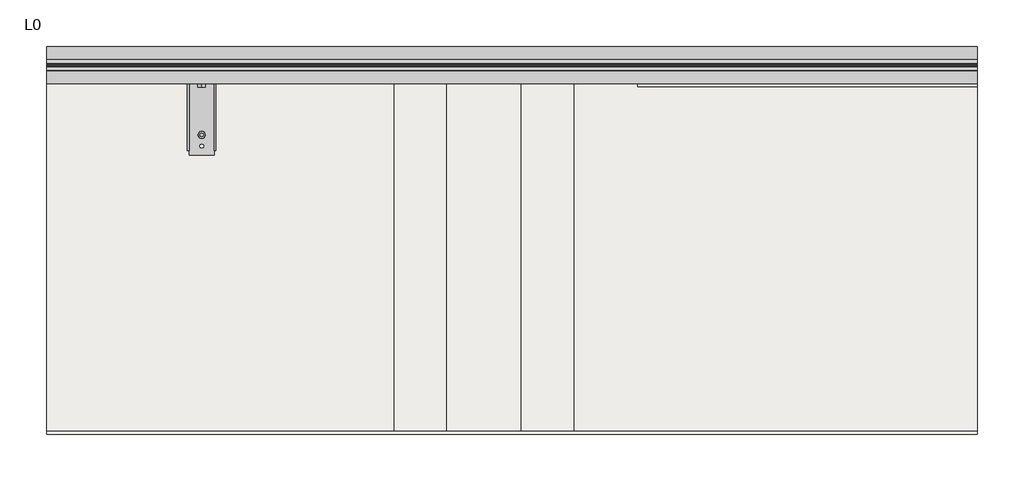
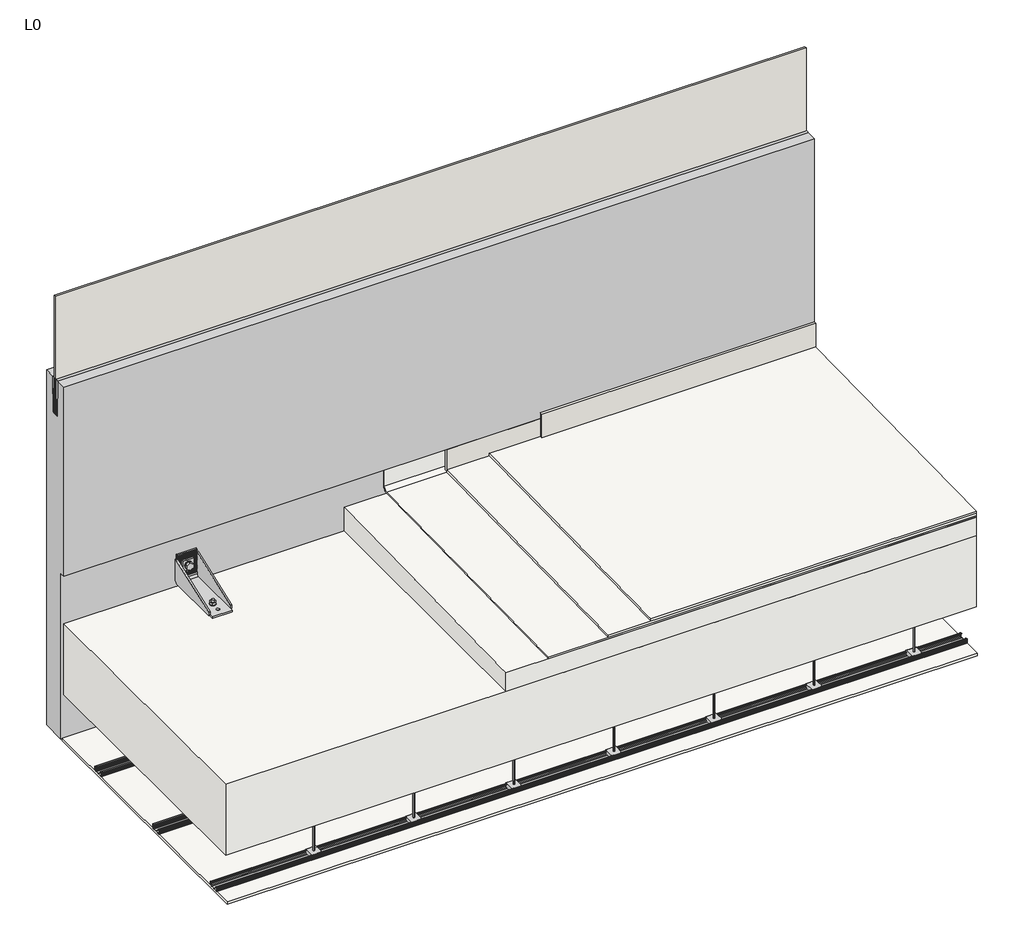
# One storey: 24 fasteners, 5 proxies, 5 slabs, 3 walls, 1 covering.
"""IFC4 building model written with IfcOpenShell, lengths in millimetres."""

from ifc_helpers import new_model, si_unit, frame, origin, place, context, project, spatial, polyline, circle_curve, outline, extrude, transform, mapped, element, save
from ifc_brep_helpers import plane_surface, revolved_surface, advanced_brep
from components import montantes_falso_techo_montantes_falso_techo_e8f84bc9, montantes_falso_techo_montantes_falso_techo_cf3b863c, sellado_sellado_5cd9687d, fastener_4b0fadc4, fastener_2a2ea2da, fastener_e2884140, fastener_89f2e246, fastener_81d81b55, rec_aem12_100_aem12_100_46347e7a, rec_aem12_140_aem12_140_dcbebcd7, rec_cpa448t17_cpa448t17_96b728d6, rec_m16_45_m16_45_58386a80, rec_paa150708t14_paa150708t14_abbbcd53, rec_ph4022_ph4022_520e7247, rec_tph1250_tph1250_56b32e52, slab_5167fee6

model = new_model("IFC4")

# Units and contexts
model_context = context("Model", 3, world=origin())
ifc_project = project(units=[si_unit("LENGTHUNIT", "METRE", prefix="MILLI")], contexts=[model_context])

# Site, building, storey
site = spatial("IfcSite", under=ifc_project)
building = spatial("IfcBuilding", under=site)
storey = spatial("IfcBuildingStorey", under=building, Name="L0", Elevation=0.0)

# Proxies
placement = place(None, origin())
element("IfcBuildingElementProxy", 1, Name="Panel Hormigón : Panel Hormigón", ObjectType="Panel Hormigón : Panel Hormigón", at=placement, inside=storey, context=model_context, shape_type="AdvancedBrep", body=[
    advanced_brep(
    [(4887.7202663, 15914.5302953, 1000.0), (7887.7202663, 15914.5302953, 1000.0), (7887.7202663, 15957.0302953, 1000.0), (4887.7202663, 15957.0302953, 1000.0), (7887.7202663, 16034.5302953, 1000.0), (4887.7202663, 16034.5302953, 1000.0), (4887.7202663, 15992.0302953, 1000.0), (7887.7202663, 15992.0302953, 1000.0), (4887.7202663, 16034.5302953, -500.0), (7887.7202663, 16034.5302953, -500.0), (7887.7202663, 15934.5302953, -500.0), (4887.7202663, 15934.5302953, -500.0), (4887.7202663, 15934.5302953, 200.0), (4887.7202663, 15914.5302953, 200.0), (4887.7202663, 15959.5302953, 850.0), (4887.7202663, 15989.5302953, 850.0), (7887.7202663, 15914.5302953, 200.0), (7887.7202663, 15989.5302953, 850.0), (7887.7202663, 15959.5302953, 850.0), (7887.7202663, 15934.5302953, 200.0), (5367.5702663, 15934.5302953, -270.0), (5407.8702663, 15934.5302953, -270.0), (5407.8702663, 15934.5302953, -420.0), (5367.5702663, 15934.5302953, -420.0), (7367.5702663, 15934.5302953, -270.0), (7407.8702663, 15934.5302953, -270.0), (7407.8702663, 15934.5302953, -420.0), (7367.5702663, 15934.5302953, -420.0), (5398.7202663, 15934.5302953, 72.0), (5376.7202663, 15934.5302953, 72.0), (7398.7202663, 15934.5302953, 72.0), (7376.7202663, 15934.5302953, 72.0), (5367.5702663, 15956.6051011, -270.0), (5407.8702663, 15956.6051011, -270.0), (5367.5702663, 15956.6051011, -420.0), (5407.8702663, 15956.6051011, -420.0), (7367.5702663, 15956.6051011, -270.0), (7407.8702663, 15956.6051011, -270.0), (7367.5702663, 15956.6051011, -420.0), (7407.8702663, 15956.6051011, -420.0), (5376.7202663, 15979.5302953, 72.0), (5398.7202663, 15979.5302953, 72.0), (7376.7202663, 15979.5302953, 72.0), (7398.7202663, 15979.5302953, 72.0)],
    [
        (0, 1),
        (1, 2),
        (2, 3),
        (3, 0),
        (4, 5),
        (5, 6),
        (6, 7),
        (7, 4),
        (8, 9),
        (9, 10),
        (10, 11),
        (11, 8),
        (5, 8),
        (11, 12),
        (12, 13),
        (13, 0),
        (3, 14),
        (14, 15),
        (15, 6),
        (13, 16),
        (16, 1),
        (9, 4),
        (7, 17),
        (17, 18),
        (18, 2),
        (16, 19),
        (19, 10),
        (12, 19),
        (20, 21),
        (21, 22),
        (22, 23),
        (23, 20),
        (24, 25),
        (25, 26),
        (26, 27),
        (27, 24),
        (28, 29, circle_curve(frame((5387.7202663, 15934.5302953, 72.0), z_axis=(0.0, 1.0, 0.0), x_axis=(1.0, 0.0, 0.0)), 11.0)),
        (29, 28, circle_curve(frame((5387.7202663, 15934.5302953, 72.0), z_axis=(0.0, 1.0, 0.0), x_axis=(1.0, 0.0, 0.0)), 11.0)),
        (30, 31, circle_curve(frame((7387.7202663, 15934.5302953, 72.0), z_axis=(0.0, 1.0, 0.0), x_axis=(1.0, 0.0, 0.0)), 11.0)),
        (31, 30, circle_curve(frame((7387.7202663, 15934.5302953, 72.0), z_axis=(0.0, 1.0, 0.0), x_axis=(1.0, 0.0, 0.0)), 11.0)),
        (14, 18),
        (17, 15),
        (32, 33),
        (33, 21),
        (20, 32),
        (34, 23),
        (22, 35),
        (35, 34),
        (34, 32),
        (33, 35),
        (36, 37),
        (37, 25),
        (24, 36),
        (38, 27),
        (26, 39),
        (39, 38),
        (38, 36),
        (37, 39),
        (40, 41, circle_curve(frame((5387.7202663, 15979.5302953, 72.0), z_axis=(0.0, -1.0, 0.0), x_axis=(1.0, 0.0, 0.0)), 11.0)),
        (41, 40, circle_curve(frame((5387.7202663, 15979.5302953, 72.0), z_axis=(0.0, -1.0, 0.0), x_axis=(1.0, 0.0, 0.0)), 11.0)),
        (40, 29),
        (28, 41),
        (42, 43, circle_curve(frame((7387.7202663, 15979.5302953, 72.0), z_axis=(0.0, -1.0, 0.0), x_axis=(1.0, 0.0, 0.0)), 11.0)),
        (43, 42, circle_curve(frame((7387.7202663, 15979.5302953, 72.0), z_axis=(0.0, -1.0, 0.0), x_axis=(1.0, 0.0, 0.0)), 11.0)),
        (42, 31),
        (30, 43),
    ],
    [
        plane_surface(frame((4887.7202663, 16034.5302953, 1000.0), z_axis=(0.0, 0.0, 1.0), x_axis=(0.0, -1.0, 0.0))),
        plane_surface(frame((4887.7202663, 16034.5302953, -500.0), z_axis=(0.0, 0.0, -1.0), x_axis=(0.0, 1.0, 0.0))),
        plane_surface(frame((4887.7202663, 16034.5302953, 1000.0), z_axis=(-1.0, 0.0, 0.0), x_axis=(0.0, 0.0, -1.0))),
        plane_surface(frame((4887.7202663, 15914.5302953, 1000.0), z_axis=(0.0, -1.0, 0.0), x_axis=(0.0, 0.0, -1.0))),
        plane_surface(frame((7887.7202663, 15914.5302953, 1000.0), z_axis=(1.0, 0.0, 0.0), x_axis=(0.0, 0.0, -1.0))),
        plane_surface(frame((7887.7202663, 16034.5302953, 1000.0), z_axis=(0.0, 1.0, 0.0), x_axis=(0.0, 0.0, -1.0))),
        plane_surface(frame((4887.7202663, 15914.5302953, 200.0), z_axis=(0.0, 0.0, -1.0), x_axis=(1.0, 0.0, 0.0))),
        plane_surface(frame((4887.7202663, 15934.5302953, 200.0), z_axis=(0.0, -1.0, 0.0), x_axis=(1.0, 0.0, 0.0))),
        plane_surface(frame((4887.7202663, 15989.5302953, 850.0), z_axis=(0.0, 0.0, 1.0), x_axis=(1.0, 0.0, 0.0))),
        plane_surface(frame((4887.7202663, 15959.5302953, 850.0), z_axis=(0.0, 0.9998611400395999, 0.016664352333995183), x_axis=(1.0, 0.0, 0.0))),
        plane_surface(frame((4887.7202663, 15992.0302953, 1000.0), z_axis=(0.0, -0.9998611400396, 0.016664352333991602), x_axis=(1.0, 0.0, 0.0))),
        plane_surface(frame((5367.5702663, 15951.6051011, -270.0), z_axis=(0.0, 0.0, -1.0), x_axis=(0.0, -1.0, 0.0))),
        plane_surface(frame((5367.5702663, 15951.6051011, -420.0), z_axis=(0.0, 0.0, 1.0), x_axis=(0.0, 1.0, 0.0))),
        plane_surface(frame((5367.5702663, 15956.6051011, -270.0), z_axis=(1.0, 0.0, 0.0), x_axis=(0.0, 0.0, -1.0))),
        plane_surface(frame((5407.8702663, 15934.6051011, -270.0), z_axis=(-1.0, 0.0, 0.0), x_axis=(0.0, 0.0, -1.0))),
        plane_surface(frame((5407.8702663, 15956.6051011, -270.0), z_axis=(0.0, -1.0, 0.0), x_axis=(0.0, 0.0, -1.0))),
        plane_surface(frame((7367.5702663, 15951.6051011, -270.0), z_axis=(0.0, 0.0, -1.0), x_axis=(0.0, -1.0, 0.0))),
        plane_surface(frame((7367.5702663, 15951.6051011, -420.0), z_axis=(0.0, 0.0, 1.0), x_axis=(0.0, 1.0, 0.0))),
        plane_surface(frame((7367.5702663, 15956.6051011, -270.0), z_axis=(1.0, 0.0, 0.0), x_axis=(0.0, 0.0, -1.0))),
        plane_surface(frame((7407.8702663, 15934.6051011, -270.0), z_axis=(-1.0, 0.0, 0.0), x_axis=(0.0, 0.0, -1.0))),
        plane_surface(frame((7407.8702663, 15956.6051011, -270.0), z_axis=(0.0, -1.0, 0.0), x_axis=(0.0, 0.0, -1.0))),
        plane_surface(frame((5398.7202663, 15979.5302953, 72.0), z_axis=(0.0, -1.0, 0.0), x_axis=(0.0, 0.0, -1.0))),
        revolved_surface(polyline([(5398.7202663, 15934.5302953, 72.0), (5398.7202663, 15979.5302953, 72.0)]), (5387.7202663, 15979.5302953, 72.0), (0.0, -1.0, 0.0)),
        plane_surface(frame((7398.7202663, 15979.5302953, 72.0), z_axis=(0.0, -1.0, 0.0), x_axis=(0.0, 0.0, -1.0))),
        revolved_surface(polyline([(7398.7202663, 15934.5302953, 72.0), (7398.7202663, 15979.5302953, 72.0)]), (7387.7202663, 15979.5302953, 72.0), (0.0, -1.0, 0.0)),
    ],
    [
        (0, [[1, 2, 3, 4]]),
        (0, [[5, 6, 7, 8]]),
        (1, [[9, 10, 11, 12]]),
        (2, [[13, -12, 14, 15, 16, -4, 17, 18, 19, -6]]),
        (3, [[-1, -16, 20, 21]]),
        (4, [[22, -8, 23, 24, 25, -2, -21, 26, 27, -10]]),
        (5, [[-5, -22, -9, -13]]),
        (6, [[-15, 28, -26, -20]]),
        (7, [[-11, -27, -28, -14], [29, 30, 31, 32], [33, 34, 35, 36], [37, 38], [39, 40]]),
        (8, [[-18, 41, -24, 42]]),
        (9, [[-3, -25, -41, -17]]),
        (10, [[-7, -19, -42, -23]]),
        (11, [[43, 44, -29, 45]]),
        (12, [[46, -31, 47, 48]]),
        (13, [[-45, -32, -46, 49]]),
        (14, [[-44, 50, -47, -30]]),
        (15, [[-43, -49, -48, -50]]),
        (16, [[51, 52, -33, 53]]),
        (17, [[54, -35, 55, 56]]),
        (18, [[-53, -36, -54, 57]]),
        (19, [[-52, 58, -55, -34]]),
        (20, [[-51, -57, -56, -58]]),
        (21, [[59, 60]]),
        (22, [[-59, 61, -37, 62]]),
        (22, [[-60, -62, -38, -61]]),
        (23, [[63, 64]]),
        (24, [[-63, 65, -39, 66]]),
        (24, [[-64, -66, -40, -65]]),
    ],
),
])
montantes_falso_techo_montantes_falso_techo_shape = montantes_falso_techo_montantes_falso_techo_e8f84bc9(model_context)
montantes_falso_techo_montantes_falso_techo_2_shape = montantes_falso_techo_montantes_falso_techo_cf3b863c(model_context)
element("IfcBuildingElementProxy", 2, Name="Montantes falso techo : Montantes falso techo", ObjectType="Montantes falso techo : Montantes falso techo", at=placement, inside=storey, context=model_context, shape_type="MappedRepresentation", body=[
    mapped(montantes_falso_techo_montantes_falso_techo_shape, transform((4887.7202663, 15654.5302953, -490.0), x_axis=(1.0, 0.0, 0.0), y_axis=(0.0, 1.0, 0.0), z_axis=(0.0, 0.0, 1.0))),
    mapped(montantes_falso_techo_montantes_falso_techo_2_shape, transform((4887.7202663, 15654.5302953, -490.0), x_axis=(1.0, 0.0, 0.0), y_axis=(0.0, 1.0, 0.0), z_axis=(0.0, 0.0, 1.0))),
])
element("IfcBuildingElementProxy", 3, Name="Montantes falso techo : Montantes falso techo", ObjectType="Montantes falso techo : Montantes falso techo", at=placement, inside=storey, context=model_context, shape_type="MappedRepresentation", body=[
    mapped(montantes_falso_techo_montantes_falso_techo_shape, transform((4887.7202663, 15254.5302953, -490.0), x_axis=(1.0, 0.0, 0.0), y_axis=(0.0, 1.0, 0.0), z_axis=(0.0, 0.0, 1.0))),
    mapped(montantes_falso_techo_montantes_falso_techo_2_shape, transform((4887.7202663, 15254.5302953, -490.0), x_axis=(1.0, 0.0, 0.0), y_axis=(0.0, 1.0, 0.0), z_axis=(0.0, 0.0, 1.0))),
])
element("IfcBuildingElementProxy", 4, Name="Montantes falso techo : Montantes falso techo", ObjectType="Montantes falso techo : Montantes falso techo", at=placement, inside=storey, context=model_context, shape_type="MappedRepresentation", body=[
    mapped(montantes_falso_techo_montantes_falso_techo_shape, transform((4887.7202663, 14854.5302953, -490.0), x_axis=(1.0, 0.0, 0.0), y_axis=(0.0, 1.0, 0.0), z_axis=(0.0, 0.0, 1.0))),
    mapped(montantes_falso_techo_montantes_falso_techo_2_shape, transform((4887.7202663, 14854.5302953, -490.0), x_axis=(1.0, 0.0, 0.0), y_axis=(0.0, 1.0, 0.0), z_axis=(0.0, 0.0, 1.0))),
])
sellado_sellado_shape = sellado_sellado_5cd9687d(model_context)
element("IfcBuildingElementProxy", 5, Name="Sellado : Sellado", ObjectType="Sellado : Sellado", at=placement, inside=storey, context=model_context, shape_type="MappedRepresentation", body=[
    mapped(sellado_sellado_shape, transform((0.0, 0.0, 0.0), x_axis=(1.0, 0.0, 0.0), y_axis=(0.0, 1.0, 0.0), z_axis=(0.0, 0.0, 1.0))),
])

# Covering
element("IfcCovering", 6, ObjectType="Placa", at=placement, inside=storey, context=model_context, shape_type="SweptSolid", body=[
    extrude(outline(polyline([(7887.7202663, 14784.5302953), (4887.7202663, 14784.5302953), (4887.7202663, 15924.5302953), (7887.7202663, 15924.5302953), (7887.7202663, 14784.5302953)])), frame((0.0, 0.0, -500.0), z_axis=(0.0, 0.0, 1.0), x_axis=(1.0, 0.0, 0.0)), (0.0, 0.0, 1.0), 10.0),
])

# Fasteners
fastener_shape = fastener_4b0fadc4(model_context)
element("IfcFastener", 7, ObjectType="REC-PARA2501208RT : PARA2501208RT", at=placement, inside=storey, context=model_context, shape_type="MappedRepresentation", body=[
    mapped(fastener_shape, transform((5387.7202663, 15934.5302953, 0.0), x_axis=(1.0, 0.0, 0.0), y_axis=(0.0, 1.0, 0.0), z_axis=(0.0, 0.0, 1.0))),
])
element("IfcFastener", 8, ObjectType="REC-PARA2501208RT : PARA2501208RT", at=placement, inside=storey, context=model_context, shape_type="MappedRepresentation", body=[
    mapped(fastener_shape, transform((7387.7202663, 15934.5302953, 0.0), x_axis=(1.0, 0.0, 0.0), y_axis=(0.0, 1.0, 0.0), z_axis=(0.0, 0.0, 1.0))),
])
fastener_2_shape = fastener_2a2ea2da(model_context)
element("IfcFastener", 9, ObjectType="REC-HBP M16-75 EV : HBP M16-75 EV", at=placement, inside=storey, context=model_context, shape_type="MappedRepresentation", body=[
    mapped(fastener_2_shape, transform((5387.7202663, 15934.5302953, 72.0), x_axis=(1.0, 0.0, 0.0), y_axis=(0.0, 0.0, 1.0), z_axis=(0.0, -1.0, 0.0))),
])
element("IfcFastener", 10, ObjectType="REC-HBP M16-75 EV : HBP M16-75 EV", at=placement, inside=storey, context=model_context, shape_type="MappedRepresentation", body=[
    mapped(fastener_2_shape, transform((7387.7202663, 15934.5302953, 72.0), x_axis=(1.0, 0.0, 0.0), y_axis=(0.0, 0.0, 1.0), z_axis=(0.0, -1.0, 0.0))),
])
fastener_3_shape = fastener_e2884140(model_context)
element("IfcFastener", 11, ObjectType="GEN-T-M12 : T-M12", at=placement, inside=storey, context=model_context, shape_type="MappedRepresentation", body=[
    mapped(fastener_3_shape, transform((5387.7202663, 15924.1302977, -345.0), x_axis=(-1.0, 0.0, 0.0), y_axis=(0.0, 0.0, -1.0), z_axis=(0.0, -1.0, 0.0))),
])
element("IfcFastener", 12, ObjectType="GEN-T-M12 : T-M12", at=placement, inside=storey, context=model_context, shape_type="MappedRepresentation", body=[
    mapped(fastener_3_shape, transform((7387.7202663, 15924.1302977, -345.0), x_axis=(-1.0, 0.0, 0.0), y_axis=(0.0, 0.0, -1.0), z_axis=(0.0, -1.0, 0.0))),
])
fastener_4_shape = fastener_89f2e246(model_context)
element("IfcFastener", 13, ObjectType="GEN-A-M12 : A-M12", at=placement, inside=storey, context=model_context, shape_type="MappedRepresentation", body=[
    mapped(fastener_4_shape, transform((5387.7202663, 15926.5302953, -345.0), x_axis=(-1.0, 0.0, 0.0), y_axis=(0.0, 0.0, -1.0), z_axis=(0.0, -1.0, 0.0))),
])
element("IfcFastener", 14, ObjectType="GEN-A-M12 : A-M12", at=placement, inside=storey, context=model_context, shape_type="MappedRepresentation", body=[
    mapped(fastener_4_shape, transform((7387.7202663, 15926.5302953, -345.0), x_axis=(-1.0, 0.0, 0.0), y_axis=(0.0, 0.0, -1.0), z_axis=(0.0, -1.0, 0.0))),
])
fastener_5_shape = fastener_81d81b55(model_context)
element("IfcFastener", 15, ObjectType="REC-A-M16 : A-M16", at=placement, inside=storey, context=model_context, shape_type="MappedRepresentation", body=[
    mapped(fastener_5_shape, transform((5387.7202663, 15919.9052953, 72.0), x_axis=(1.0, 0.0, 0.0), y_axis=(0.0, 0.0, 1.0), z_axis=(0.0, -1.0, 0.0))),
])
element("IfcFastener", 16, ObjectType="REC-A-M16 : A-M16", at=placement, inside=storey, context=model_context, shape_type="MappedRepresentation", body=[
    mapped(fastener_5_shape, transform((7387.7202663, 15919.9052953, 72.0), x_axis=(1.0, 0.0, 0.0), y_axis=(0.0, 0.0, 1.0), z_axis=(0.0, -1.0, 0.0))),
])
rec_aem12_100_aem12_100_shape = rec_aem12_100_aem12_100_46347e7a(model_context)
element("IfcFastener", 17, ObjectType="REC-AEM12-100 : AEM12-100", at=placement, inside=storey, context=model_context, shape_type="MappedRepresentation", body=[
    mapped(rec_aem12_100_aem12_100_shape, transform((5387.7202663, 15834.5302953, -308.0), x_axis=(-1.0, 0.0, 0.0), y_axis=(0.0, 1.0, 0.0), z_axis=(0.0, 0.0, -1.0))),
])
element("IfcFastener", 18, ObjectType="REC-AEM12-100 : AEM12-100", at=placement, inside=storey, context=model_context, shape_type="MappedRepresentation", body=[
    mapped(rec_aem12_100_aem12_100_shape, transform((7387.7202663, 15834.5302953, -308.0), x_axis=(-1.0, 0.0, 0.0), y_axis=(0.0, 1.0, 0.0), z_axis=(0.0, 0.0, -1.0))),
])
rec_aem12_140_aem12_140_shape = rec_aem12_140_aem12_140_dcbebcd7(model_context)
element("IfcFastener", 19, ObjectType="REC-AEM12-140 : AEM12-140", at=placement, inside=storey, context=model_context, shape_type="MappedRepresentation", body=[
    mapped(rec_aem12_140_aem12_140_shape, transform((5387.7202663, 15749.5302953, 8.0), x_axis=(1.0, 0.0, 0.0), y_axis=(0.0, 1.0, 0.0), z_axis=(0.0, 0.0, 1.0))),
])
element("IfcFastener", 20, ObjectType="REC-AEM12-140 : AEM12-140", at=placement, inside=storey, context=model_context, shape_type="MappedRepresentation", body=[
    mapped(rec_aem12_140_aem12_140_shape, transform((7387.7202663, 15749.5302953, 8.0), x_axis=(1.0, 0.0, 0.0), y_axis=(0.0, 1.0, 0.0), z_axis=(0.0, 0.0, 1.0))),
])
rec_cpa448t17_cpa448t17_shape = rec_cpa448t17_cpa448t17_96b728d6(model_context)
element("IfcFastener", 21, ObjectType="REC-CPA448T17 : CPA448T17", at=placement, inside=storey, context=model_context, shape_type="MappedRepresentation", body=[
    mapped(rec_cpa448t17_cpa448t17_shape, transform((5387.7202663, 15927.9052953, 72.0), x_axis=(-1.0, 0.0, 0.0), y_axis=(0.0, 0.0, -1.0), z_axis=(0.0, -1.0, 0.0))),
])
element("IfcFastener", 22, ObjectType="REC-CPA448T17 : CPA448T17", at=placement, inside=storey, context=model_context, shape_type="MappedRepresentation", body=[
    mapped(rec_cpa448t17_cpa448t17_shape, transform((7387.7202663, 15927.9052953, 72.0), x_axis=(-1.0, 0.0, 0.0), y_axis=(0.0, 0.0, -1.0), z_axis=(0.0, -1.0, 0.0))),
])
rec_m16_45_m16_45_shape = rec_m16_45_m16_45_58386a80(model_context)
element("IfcFastener", 23, ObjectType="REC-M16-45 : M16-45", at=placement, inside=storey, context=model_context, shape_type="MappedRepresentation", body=[
    mapped(rec_m16_45_m16_45_shape, transform((5387.7202663, 15916.9052953, 72.0), x_axis=(0.0, 0.0, 1.0), y_axis=(-1.0, 0.0, 0.0), z_axis=(0.0, -1.0, 0.0))),
])
element("IfcFastener", 24, ObjectType="REC-M16-45 : M16-45", at=placement, inside=storey, context=model_context, shape_type="MappedRepresentation", body=[
    mapped(rec_m16_45_m16_45_shape, transform((7387.7202663, 15916.9052953, 72.0), x_axis=(0.0, 0.0, 1.0), y_axis=(-1.0, 0.0, 0.0), z_axis=(0.0, -1.0, 0.0))),
])
rec_paa150708t14_paa150708t14_shape = rec_paa150708t14_paa150708t14_abbbcd53(model_context)
element("IfcFastener", 25, ObjectType="REC-PAA150708T14 : PAA150708T14", at=placement, inside=storey, context=model_context, shape_type="MappedRepresentation", body=[
    mapped(rec_paa150708t14_paa150708t14_shape, transform((5387.7202663, 15934.5302953, -300.0), x_axis=(-1.0, 0.0, 0.0), y_axis=(0.0, 0.0, -1.0), z_axis=(0.0, -1.0, 0.0))),
])
element("IfcFastener", 26, ObjectType="REC-PAA150708T14 : PAA150708T14", at=placement, inside=storey, context=model_context, shape_type="MappedRepresentation", body=[
    mapped(rec_paa150708t14_paa150708t14_shape, transform((7387.7202663, 15934.5302953, -300.0), x_axis=(-1.0, 0.0, 0.0), y_axis=(0.0, 0.0, -1.0), z_axis=(0.0, -1.0, 0.0))),
])
rec_ph4022_ph4022_shape = rec_ph4022_ph4022_520e7247(model_context)
element("IfcFastener", 27, ObjectType="REC-PH4022 : PH4022", at=placement, inside=storey, context=model_context, shape_type="MappedRepresentation", body=[
    mapped(rec_ph4022_ph4022_shape, transform((5387.7202663, 15934.5302953, -345.0), x_axis=(0.0, 0.0, 1.0), y_axis=(-1.0, 0.0, 0.0), z_axis=(0.0, -1.0, 0.0))),
])
element("IfcFastener", 28, ObjectType="REC-PH4022 : PH4022", at=placement, inside=storey, context=model_context, shape_type="MappedRepresentation", body=[
    mapped(rec_ph4022_ph4022_shape, transform((7387.7202663, 15934.5302953, -345.0), x_axis=(0.0, 0.0, 1.0), y_axis=(-1.0, 0.0, 0.0), z_axis=(0.0, -1.0, 0.0))),
])
rec_tph1250_tph1250_shape = rec_tph1250_tph1250_56b32e52(model_context)
element("IfcFastener", 29, ObjectType="REC-TPH1250 : TPH1250", at=placement, inside=storey, context=model_context, shape_type="MappedRepresentation", body=[
    mapped(rec_tph1250_tph1250_shape, transform((5387.7202663, 15891.5355917, -345.0), x_axis=(-1.0, 0.0, 0.0), y_axis=(0.0, 0.0, 1.0), z_axis=(0.0, 1.0, 0.0))),
])
element("IfcFastener", 30, ObjectType="REC-TPH1250 : TPH1250", at=placement, inside=storey, context=model_context, shape_type="MappedRepresentation", body=[
    mapped(rec_tph1250_tph1250_shape, transform((7387.7202663, 15891.5355917, -345.0), x_axis=(-1.0, 0.0, 0.0), y_axis=(0.0, 0.0, 1.0), z_axis=(0.0, 1.0, 0.0))),
])

# Slabs
element("IfcSlab", 31, ObjectType="DPG_Pegamento cemento", at=placement, inside=storey, context=model_context, shape_type="SweptSolid", body=[
    extrude(outline(polyline([(14794.5302953, 85.0), (14794.5302953, 95.0), (15914.5302953, 115.0001993), (15914.5302953, 105.0001993), (14794.5302953, 85.0)])), frame((6417.7202663, 0.0, 0.0), z_axis=(1.0, 0.0, 0.0), x_axis=(0.0, 1.0, 0.0)), (0.0, 0.0, 1.0), 1470.0),
])
slab_shape = slab_5167fee6(model_context)
element("IfcSlab", 32, ObjectType="Lamina impermeable : Lamina impermeable", at=placement, inside=storey, context=model_context, shape_type="MappedRepresentation", body=[
    mapped(slab_shape, transform((0.0, 0.0, 0.0), x_axis=(1.0, 0.0, 0.0), y_axis=(0.0, 1.0, 0.0), z_axis=(0.0, 0.0, 1.0))),
])
element("IfcSlab", 33, ObjectType="DPG_Ceramica", at=placement, inside=storey, context=model_context, shape_type="SweptSolid", body=[
    extrude(outline(polyline([(14794.5302953, 95.0), (14794.5302953, 105.0), (15914.5302953, 125.0001993), (15914.5302953, 115.0001993), (14794.5302953, 95.0)])), frame((6587.7202663, 0.0, 0.0), z_axis=(1.0, 0.0, 0.0), x_axis=(0.0, 1.0, 0.0)), (0.0, 0.0, 1.0), 1300.0),
])
element("IfcSlab", 34, ObjectType="DPG_Losa Principal Obra", at=placement, inside=storey, context=model_context, shape_type="SweptSolid", body=[
    extrude(outline(polyline([(7887.7202663, 15914.5302953), (7887.7202663, 14794.5302953), (4887.7202663, 14794.5302953), (4887.7202663, 15914.5302953), (7887.7202663, 15914.5302953)])), frame((0.0, 0.0, -300.0), z_axis=(0.0, 0.0, 1.0), x_axis=(1.0, 0.0, 0.0)), (0.0, 0.0, 1.0), 300.0),
])
element("IfcSlab", 35, ObjectType="DPG_Recrecido", at=placement, inside=storey, context=model_context, shape_type="SweptSolid", body=[
    extrude(outline(polyline([(15914.5302953, 0.0), (14794.5302953, 0.0), (14794.5302953, 80.0), (15914.5302953, 100.0), (15914.5302953, 0.0)])), frame((6007.7202663, 0.0, 0.0), z_axis=(1.0, 0.0, 0.0), x_axis=(0.0, 1.0, 0.0)), (0.0, 0.0, 1.0), 1880.0),
])

# Walls
element("IfcWall", 36, ObjectType="DPG_Pegamento cementoso", at=placement, inside=storey, context=model_context, shape_type="SweptSolid", body=[
    extrude(outline(polyline([(7887.7202663, 15914.5302953), (6417.7202663, 15914.5302953), (6417.7202663, 15924.5302953), (7887.7202663, 15924.5302953), (7887.7202663, 15914.5302953)])), frame((0.0, 0.0, 108.7326719), z_axis=(0.0, 0.0, 1.0), x_axis=(1.0, 0.0, 0.0)), (0.0, 0.0, 1.0), 91.2673281),
])
element("IfcWall", 37, ObjectType="DPG_Rodapie", at=placement, inside=storey, context=model_context, shape_type="SweptSolid", body=[
    extrude(outline(polyline([(7887.7202663, 15904.5302953), (6792.7202663, 15904.5302953), (6792.7202663, 15914.5302953), (7887.7202663, 15914.5302953), (7887.7202663, 15904.5302953)])), frame((0.0, 0.0, 125.654483), z_axis=(0.0, 0.0, 1.0), x_axis=(1.0, 0.0, 0.0)), (0.0, 0.0, 1.0), 100.0),
])
element("IfcWall", 38, ObjectType="DPG_Vidrio", at=placement, inside=storey, context=model_context, shape_type="SweptSolid", body=[
    extrude(outline(polyline([(7887.7202663, 15969.5302953), (4887.7202663, 15969.5302953), (4887.7202663, 15979.5302953), (7887.7202663, 15979.5302953), (7887.7202663, 15969.5302953)])), frame((0.0, 0.0, 850.0), z_axis=(0.0, 0.0, 1.0), x_axis=(1.0, 0.0, 0.0)), (0.0, 0.0, 1.0), 500.0),
])

save(model, "model.ifc")
